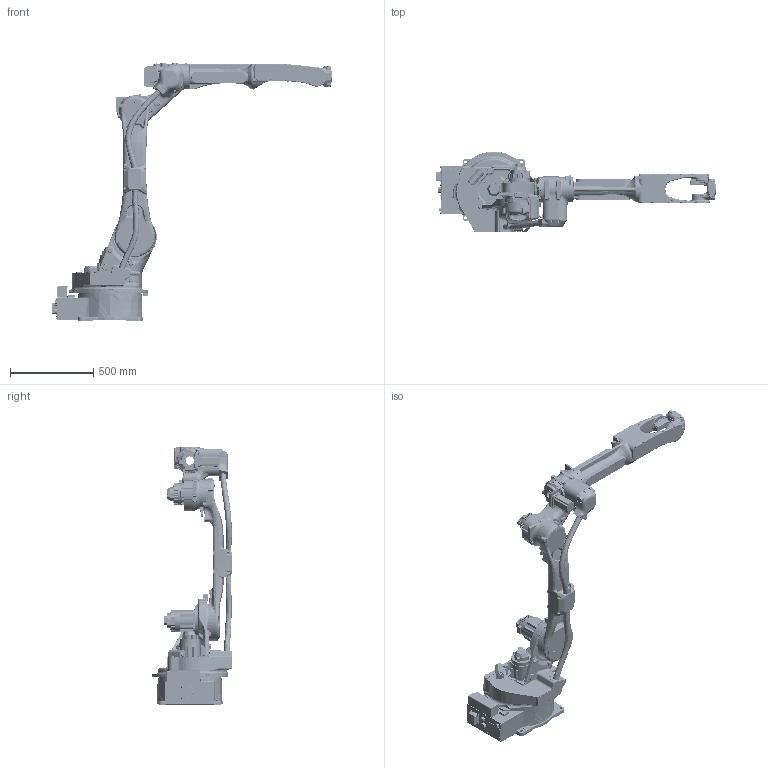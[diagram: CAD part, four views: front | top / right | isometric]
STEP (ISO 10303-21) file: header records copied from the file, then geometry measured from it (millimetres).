
FILE_DESCRIPTION((''),'2;1');
FILE_NAME('ASSY_VIEW_06VXH25-A10_ASM','2019-04-16T',('ttakaoka'),('YASKAWA ELECTRIC CORPORATION'),'PRO/ENGINEER BY PARAMETRIC TECHNOLOGY CORPORATION, 2015030','PRO/ENGINEER BY PARAMETRIC TECHNOLOGY CORPORATION, 2015030','');
FILE_SCHEMA(('CONFIG_CONTROL_DESIGN'));
Products named in the file (8): BASE_VIEW_06VXH25-A10; S_VIEW_06VXH25-A10; L_VIEW_06VXH25-A10; U_VIEW_06VXH25-A10; R_VIEW_06VXH25-A10; B_VIEW_06VXH25-A10; T_VIEW_06VXH25-A10; ASSY_VIEW_06VXH25-A10_ASM
Assembly tree (7 placements, depth 2):
  ASSY_VIEW_06VXH25-A10_ASM
    BASE_VIEW_06VXH25-A10
    S_VIEW_06VXH25-A10
    L_VIEW_06VXH25-A10
    U_VIEW_06VXH25-A10
    R_VIEW_06VXH25-A10
    B_VIEW_06VXH25-A10
    T_VIEW_06VXH25-A10
Bounding box: 1679.85 x 484 x 1548 mm (x, y, z)
Volume: 80605652.1 mm3; surface area: 3847315.3 mm2
Topology: 7 solids, 9 shells, 6689 faces, 16908 edges, 10315 vertices
Faces by surface type: cylinder 2141, plane 2055, bspline 1517, torus 580, cone 260, sphere 77, extrusion 59
Entity records: 334233 total; most frequent: CARTESIAN_POINT 183170, ORIENTED_EDGE 33712, DIRECTION 29496, EDGE_CURVE 16856, AXIS2_PLACEMENT_3D 11569, VERTEX_POINT 10315, EDGE_LOOP 6897, FACE_OUTER_BOUND 6689
